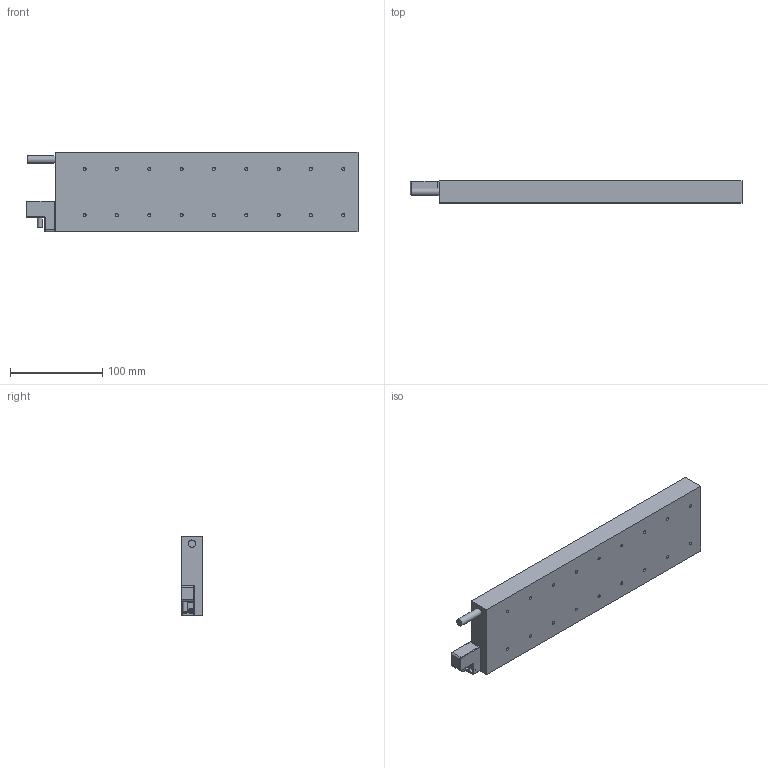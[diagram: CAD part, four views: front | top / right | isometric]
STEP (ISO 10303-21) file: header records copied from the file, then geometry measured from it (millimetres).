
FILE_DESCRIPTION( ( 'Unknown' ), '1' );
FILE_NAME( 'C:/Users/michael/Desktop/DPD86模型（业务用）/DPD86C6.stp', 'Unknown', ( 'Unknown' ), ( 'Unknown' ), 'PSStep 17.0.49', 'Unknown', ' ' );
FILE_SCHEMA( ( 'AUTOMOTIVE_DESIGN { 1 0 10303 214 1 1 1 1 }' ) );
Length unit declared in the file: millimetre
Products named in the file (3): Assem1; DPD86; 霍尔支架
Assembly tree (2 placements, depth 2):
  Assem1
    DPD86
    霍尔支架
Bounding box: 359.4 x 23.7 x 86 mm (x, y, z)
Volume: 679210.6 mm3; surface area: 81777 mm2
Topology: 2 solids, 3 shells, 101 faces, 242 edges, 153 vertices
Faces by surface type: cylinder 35, plane 34, cone 32
Full cylindrical faces by diameter (mm): 1.567 x2, 2.459 x2, 3.242 x18, 3.6 x2, 5 x1, 6 x2, 6.2 x1, 8 x1
Entity records: 3266 total; most frequent: DIRECTION 444, CARTESIAN_POINT 391, ORIENTED_EDGE 308, AXIS2_PLACEMENT_3D 186, EDGE_LOOP 160, EDGE_CURVE 154, VERTEX_POINT 133, FACE_OUTER_BOUND 130
